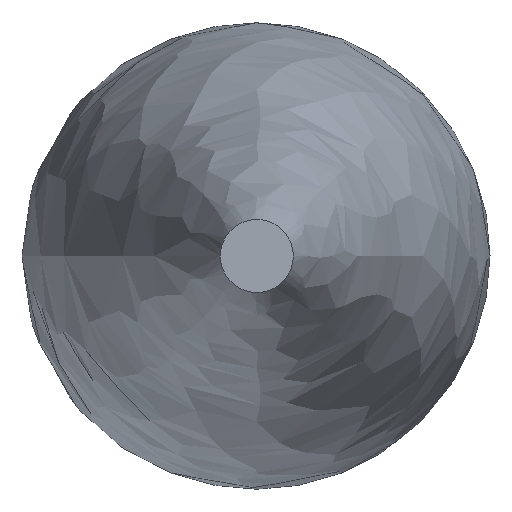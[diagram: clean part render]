
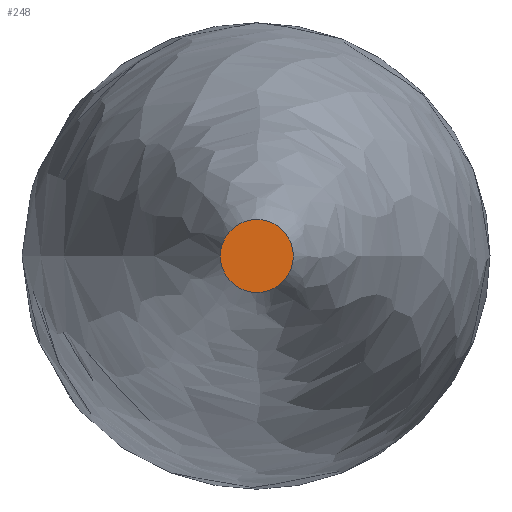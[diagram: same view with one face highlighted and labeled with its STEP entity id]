
A CAD part, left-side view. The second image highlights one B-rep face of the part: STEP entity #248.
In plain terms, the highlighted planar face has unit normal (-1, 0, 0).
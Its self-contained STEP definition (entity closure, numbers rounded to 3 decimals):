
#193=CARTESIAN_POINT('',(60.0,13.3,0.0));
#194=VERTEX_POINT('',#193);
#219=CARTESIAN_POINT('',(60.0,0.,0.0));
#220=DIRECTION('',(1.0,0.0,0.0));
#221=DIRECTION('',(0.0,1.0,0.0));
#222=AXIS2_PLACEMENT_3D('',#219,#220,#221);
#223=CIRCLE('',#222,13.3);
#224=EDGE_CURVE('',#194,#194,#223,.T.);
#240=CARTESIAN_POINT('',(60.0,6.65,0.0));
#241=DIRECTION('',(-1.0,0.0,0.0));
#242=DIRECTION('',(0.0,0.0,1.0));
#243=AXIS2_PLACEMENT_3D('',#240,#241,#242);
#244=PLANE('',#243);
#245=ORIENTED_EDGE('',*,*,#224,.F.);
#246=EDGE_LOOP('',(#245));
#247=FACE_OUTER_BOUND('',#246,.T.);
#248=ADVANCED_FACE('',(#247),#244,.T.);
